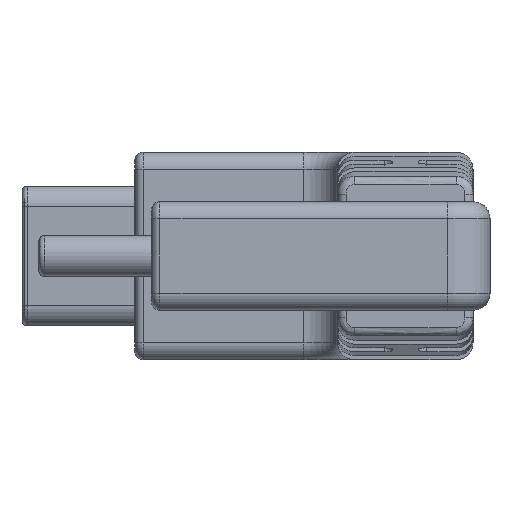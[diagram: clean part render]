
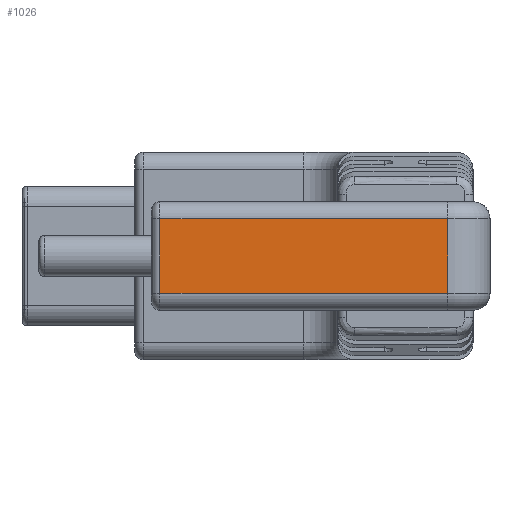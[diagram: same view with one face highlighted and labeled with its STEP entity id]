
A CAD part, left-side view. The second image highlights one B-rep face of the part: STEP entity #1026.
In plain terms, the highlighted planar face has unit normal (-1, 0, 0).
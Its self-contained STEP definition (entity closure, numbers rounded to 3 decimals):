
#118 = DIRECTION ( 'NONE',  ( 0., 1., 0. ) ) ;
#164 = LINE ( 'NONE', #5888, #7096 ) ;
#271 = LINE ( 'NONE', #3064, #7737 ) ;
#460 = CARTESIAN_POINT ( 'NONE',  ( -6.125, 15., 3.2 ) ) ;
#944 = CARTESIAN_POINT ( 'NONE',  ( -6.125, 15., 2.2 ) ) ;
#1026 = ADVANCED_FACE ( 'NONE', ( #3945 ), #6744, .F. ) ;
#1082 = VERTEX_POINT ( 'NONE', #6879 ) ;
#1410 = CARTESIAN_POINT ( 'NONE',  ( -6.125, -2.5, -2.2 ) ) ;
#1460 = ORIENTED_EDGE ( 'NONE', *, *, #9074, .T. ) ;
#2405 = DIRECTION ( 'NONE',  ( 0., 0., -1. ) ) ;
#3064 = CARTESIAN_POINT ( 'NONE',  ( -6.125, 14.5, 3.2 ) ) ;
#3141 = VECTOR ( 'NONE', #4959, 1000. ) ;
#3255 = DIRECTION ( 'NONE',  ( 1., 0., 0. ) ) ;
#3480 = AXIS2_PLACEMENT_3D ( 'NONE', #460, #3255, #8177 ) ;
#3895 = VERTEX_POINT ( 'NONE', #5019 ) ;
#3945 = FACE_OUTER_BOUND ( 'NONE', #4655, .T. ) ;
#4219 = CARTESIAN_POINT ( 'NONE',  ( -6.125, 15., -2.2 ) ) ;
#4655 = EDGE_LOOP ( 'NONE', ( #1460, #7911, #8278, #8196 ) ) ;
#4959 = DIRECTION ( 'NONE',  ( 0., -1., 0. ) ) ;
#5019 = CARTESIAN_POINT ( 'NONE',  ( -6.125, -2.5, 2.2 ) ) ;
#5691 = EDGE_CURVE ( 'NONE', #6300, #7550, #8654, .T. ) ;
#5765 = CARTESIAN_POINT ( 'NONE',  ( -6.125, 14.5, -2.2 ) ) ;
#5882 = VECTOR ( 'NONE', #118, 1000. ) ;
#5888 = CARTESIAN_POINT ( 'NONE',  ( -6.125, -2.5, 3.2 ) ) ;
#6300 = VERTEX_POINT ( 'NONE', #5765 ) ;
#6744 = PLANE ( 'NONE',  #3480 ) ;
#6746 = EDGE_CURVE ( 'NONE', #3895, #7550, #164, .T. ) ;
#6879 = CARTESIAN_POINT ( 'NONE',  ( -6.125, 14.5, 2.2 ) ) ;
#7096 = VECTOR ( 'NONE', #2405, 1000. ) ;
#7518 = DIRECTION ( 'NONE',  ( 0., 0., -1. ) ) ;
#7550 = VERTEX_POINT ( 'NONE', #1410 ) ;
#7737 = VECTOR ( 'NONE', #7518, 1000. ) ;
#7883 = LINE ( 'NONE', #944, #5882 ) ;
#7911 = ORIENTED_EDGE ( 'NONE', *, *, #8702, .T. ) ;
#8177 = DIRECTION ( 'NONE',  ( 0., 1., 0. ) ) ;
#8196 = ORIENTED_EDGE ( 'NONE', *, *, #6746, .F. ) ;
#8278 = ORIENTED_EDGE ( 'NONE', *, *, #5691, .T. ) ;
#8654 = LINE ( 'NONE', #4219, #3141 ) ;
#8702 = EDGE_CURVE ( 'NONE', #1082, #6300, #271, .T. ) ;
#9074 = EDGE_CURVE ( 'NONE', #3895, #1082, #7883, .T. ) ;
